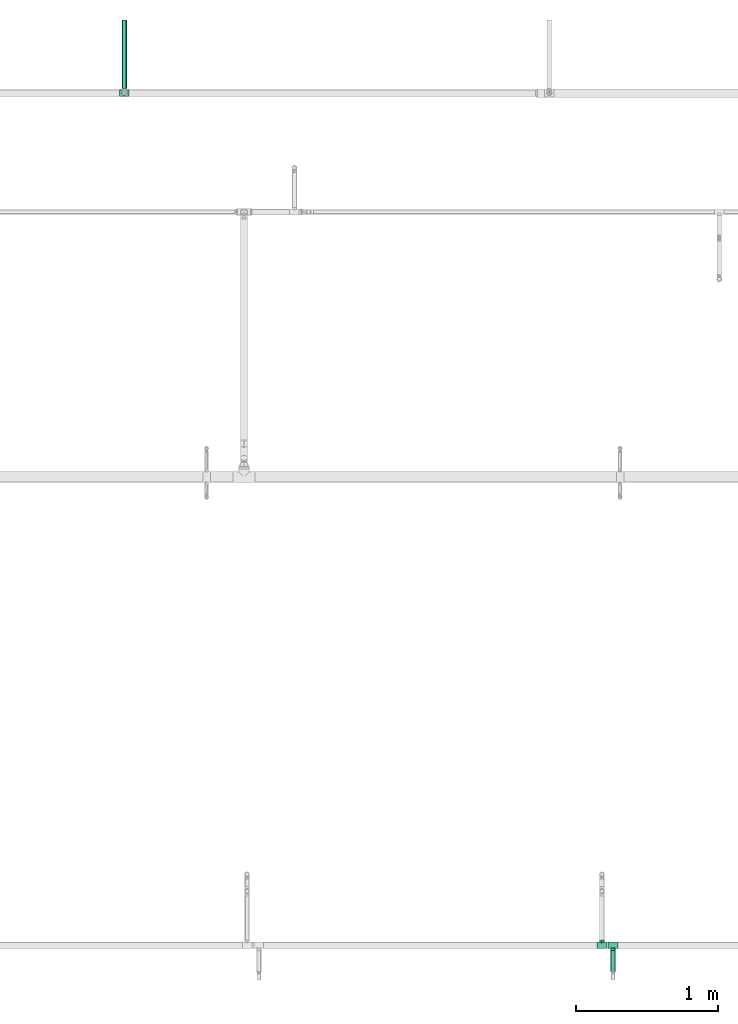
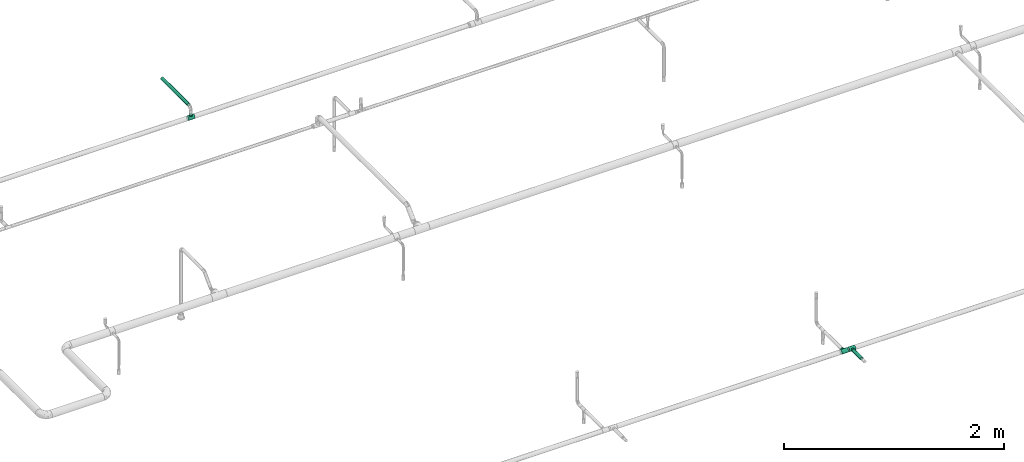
# One storey, part 8 of 51: 3 flow fittings, 2 flow segments.
"""IFC2X3 building model written with IfcOpenShell, lengths in millimetres."""

import ifcopenshell
import ifcopenshell.guid

model = None  # the IFC model being written
_history = None  # IfcOwnerHistory: only IFC2X3 demands one
_inside = {}  # id of a spatial element -> (the spatial element, [elements in it])
_under = {}  # id of a project, library or spatial element -> (it, [spatial elements below it])
_declared = {}  # id of a project -> (the project, [libraries it declares])
_typed = {}  # id of a type object -> (the type object, [elements of that type])
_made_of = {}  # id of a material, layer set ... -> (it, [elements and type objects made of it])


def new_model(schema):
    """Start an empty IFC model of exactly this schema.

    Asked for "IFC4X3", IfcOpenShell would pick the latest addendum, in which some entities
    have other attributes; the version numbers below select the first issue.
    IFC2X3 requires an IfcOwnerHistory on every rooted entity: one is made here for all.
    """
    global model, _history
    if schema == "IFC4X3":
        model = ifcopenshell.file(schema_version=(4, 3, 0, 0))
    else:
        model = ifcopenshell.file(schema=schema)
    _inside.clear()
    _under.clear()
    _declared.clear()
    _typed.clear()
    _made_of.clear()
    _history = None
    if model.schema == "IFC2X3":
        org = make("IfcOrganization", Name="unknown")
        user = make(
            "IfcPersonAndOrganization",
            ThePerson=make("IfcPerson", FamilyName="unknown"),
            TheOrganization=org,
        )
        app = make(
            "IfcApplication",
            ApplicationDeveloper=org,
            Version="unknown",
            ApplicationFullName="unknown",
            ApplicationIdentifier="unknown",
        )
        _history = make(
            "IfcOwnerHistory",
            OwningUser=user,
            OwningApplication=app,
            ChangeAction="ADDED",
            CreationDate=0,
        )
    return model


def make(cls, **values):
    """One entity of the class cls with the attributes given. An attribute that is None is left unset."""
    return model.create_entity(
        cls, **{name: value for name, value in values.items() if value is not None}
    )


def entity(cls, *values):
    """Any entity or typed value of the class cls, its attributes in the order of the schema. None: left unset."""
    e = model.create_entity(cls)
    for i, value in enumerate(values):
        if value is not None:
            e[i] = value
    return e


def rooted(cls, **values):
    """An entity with a GlobalId (a new one), such as an element, a storey or a relation."""
    return make(cls, GlobalId=ifcopenshell.guid.new(), OwnerHistory=_history, **values)


def si_unit(unit_type, name, prefix=None):
    """IfcSIUnit, for example si_unit("LENGTHUNIT", "METRE", prefix="MILLI")."""
    return make("IfcSIUnit", UnitType=unit_type, Prefix=prefix, Name=name)


def converted_unit(unit_type, name, factor, base, dimensions=None, offset=None):
    """IfcConversionBasedUnit, such as the inch: factor (a typed value) times the base unit."""
    return make(
        "IfcConversionBasedUnit"
        if offset is None
        else "IfcConversionBasedUnitWithOffset",
        ConversionOffset=offset,
        Dimensions=None
        if dimensions is None
        else entity("IfcDimensionalExponents", *dimensions),
        UnitType=unit_type,
        Name=name,
        ConversionFactor=make(
            "IfcMeasureWithUnit", ValueComponent=factor, UnitComponent=base
        ),
    )


def derived_unit(unit_type, elements):
    """IfcDerivedUnit: a product of units, each with its exponent."""
    return make(
        "IfcDerivedUnit",
        Elements=[
            make("IfcDerivedUnitElement", Unit=unit, Exponent=power)
            for unit, power in elements
        ],
        UnitType=unit_type,
    )


def assignment(units):
    """IfcUnitAssignment: the units of a project."""
    return None if units is None else make("IfcUnitAssignment", Units=units)


def point(xyz):
    """IfcCartesianPoint."""
    return None if xyz is None else make("IfcCartesianPoint", Coordinates=xyz)


def direction(xyz):
    """IfcDirection."""
    return None if xyz is None else make("IfcDirection", DirectionRatios=xyz)


def frame(location, z_axis=None, x_axis=None):
    """IfcAxis2Placement3D, a coordinate frame: its origin and axes. An axis left out is left unset."""
    return make(
        "IfcAxis2Placement3D",
        Location=point(location),
        Axis=direction(z_axis),
        RefDirection=direction(x_axis),
    )


def frame_2d(location, x_axis=None):
    """IfcAxis2Placement2D, a coordinate frame in the plane: its origin and x axis."""
    return make(
        "IfcAxis2Placement2D", Location=point(location), RefDirection=direction(x_axis)
    )


def origin_with_axes():
    """The frame at (0, 0, 0) with the z axis (0, 0, 1) and the x axis (1, 0, 0) written out."""
    return frame((0.0, 0.0, 0.0), z_axis=(0.0, 0.0, 1.0), x_axis=(1.0, 0.0, 0.0))


def origin_2d_with_axis():
    """The frame at (0, 0) in the plane with the x axis (1, 0) written out."""
    return frame_2d((0.0, 0.0), x_axis=(1.0, 0.0))


def place(relative_to, where):
    """IfcLocalPlacement: puts the frame where relative to a parent placement (None: the world)."""
    return make(
        "IfcLocalPlacement", PlacementRelTo=relative_to, RelativePlacement=where
    )


def context(
    kind, dimensions, precision=None, world=None, true_north=None, identifier=None
):
    """IfcGeometricRepresentationContext, for example the 3D "Model" context."""
    return make(
        "IfcGeometricRepresentationContext",
        ContextIdentifier=identifier,
        ContextType=kind,
        CoordinateSpaceDimension=dimensions,
        Precision=precision,
        WorldCoordinateSystem=world,
        TrueNorth=true_north,
    )


def subcontext(parent, identifier, kind, view, scale=None):
    """IfcGeometricRepresentationSubContext, for example "Body" below "Model"."""
    return make(
        "IfcGeometricRepresentationSubContext",
        ContextIdentifier=identifier,
        ContextType=kind,
        ParentContext=parent,
        TargetScale=scale,
        TargetView=view,
    )


def project(units=None, contexts=None):
    """IfcProject with its units and contexts."""
    return rooted(
        "IfcProject",
        Name="project",
        RepresentationContexts=contexts,
        UnitsInContext=assignment(units),
    )


def spatial(cls, under=None, at=None, **own):
    """A site, building, storey or space (cls), placed at a placement, below another one or the project."""
    s = rooted(cls, ObjectPlacement=at, **own)
    if under is not None:
        _under.setdefault(under.id(), (under, []))[1].append(s)
    return s


def profile(cls, at=None, kind="AREA", **sizes):
    """A parametric profile (cls). Its sizes go by their IFC names, for example OverallWidth=200.0."""
    return make(cls, ProfileType=kind, Position=at, **sizes)


def hollow_circle(**sizes):
    """IfcCircleHollowProfileDef."""
    return profile("IfcCircleHollowProfileDef", **sizes)


def extrude(swept, where, along, depth):
    """IfcExtrudedAreaSolid: the profile swept, set in the frame where, extruded along a direction by depth."""
    return make(
        "IfcExtrudedAreaSolid",
        SweptArea=swept,
        Position=where,
        ExtrudedDirection=direction(along),
        Depth=depth,
    )


def faces_of(points, faces, orient=None, outer=None):
    """IfcFace entities. A face is a list of loops; a loop is a list of indices into points, from 0.

    orient and outer hold one flag for each loop. By default every Orientation is true, the
    first loop of a face is its IfcFaceOuterBound and the others are IfcFaceBound.
    """
    made = []
    for i, loops in enumerate(faces):
        bounds = []
        for j, loop in enumerate(loops):
            is_outer = j == 0 if outer is None else outer[i][j]
            bounds.append(
                make(
                    "IfcFaceOuterBound" if is_outer else "IfcFaceBound",
                    Bound=make("IfcPolyLoop", Polygon=[points[k] for k in loop]),
                    Orientation=True if orient is None else orient[i][j],
                )
            )
        made.append(make("IfcFace", Bounds=bounds))
    return made


def open_shell(faces, orient=None, outer=None):
    """The faces of one IfcOpenShell. surface_model builds it on its shared points."""
    return ("IfcOpenShell", faces, orient, outer)


def surface_model(cls, points, shells):
    """IfcFaceBasedSurfaceModel or IfcShellBasedSurfaceModel (cls): surfaces that need not close."""
    shared = [point(p) for p in points]
    made = [make(c, CfsFaces=faces_of(shared, fs, o, b)) for c, fs, o, b in shells]
    if cls == "IfcFaceBasedSurfaceModel":
        return make(cls, FbsmFaces=made)
    return make(cls, SbsmBoundary=made)


def shape(context_of_items, identifier, shape_type, items):
    """IfcShapeRepresentation: the items that make up one representation, for example the "Body"."""
    return make(
        "IfcShapeRepresentation",
        ContextOfItems=context_of_items,
        RepresentationIdentifier=identifier,
        RepresentationType=shape_type,
        Items=items,
    )


def source(mapping_origin, context_of_items, identifier, shape_type, items):
    """IfcRepresentationMap: a shape defined once, which mapped items show again and again."""
    return make(
        "IfcRepresentationMap",
        MappingOrigin=mapping_origin,
        MappedRepresentation=shape(context_of_items, identifier, shape_type, items),
    )


def transform(
    local_origin,
    x_axis=None,
    y_axis=None,
    z_axis=None,
    scale=None,
    scale2=None,
    scale3=None,
    uniform=True,
):
    """IfcCartesianTransformationOperator3D, or its non-uniform kind. x_axis, y_axis, z_axis: its Axis1, 2, 3."""
    if uniform:
        return make(
            "IfcCartesianTransformationOperator3D",
            Axis1=direction(x_axis),
            Axis2=direction(y_axis),
            LocalOrigin=point(local_origin),
            Scale=scale,
            Axis3=direction(z_axis),
        )
    return make(
        "IfcCartesianTransformationOperator3DnonUniform",
        Axis1=direction(x_axis),
        Axis2=direction(y_axis),
        LocalOrigin=point(local_origin),
        Scale=scale,
        Axis3=direction(z_axis),
        Scale2=scale2,
        Scale3=scale3,
    )


def mapped(mapping_source, mapping_target):
    """IfcMappedItem: shows the shape of a source again, moved by a transform."""
    return make(
        "IfcMappedItem", MappingSource=mapping_source, MappingTarget=mapping_target
    )


def made_of(thing, what):
    """Note that an element or type object is made of a material, layer set ...; save() writes the relation."""
    if what is not None:
        _made_of.setdefault(what.id(), (what, []))[1].append(thing)
    return thing


def type_object(cls, material=None, **own):
    """A type object (cls), such as IfcWallType, which elements share."""
    return made_of(rooted(cls, **own), material)


def element(
    cls,
    number,
    at=None,
    inside=None,
    cuts=None,
    type_object=None,
    material=None,
    context=None,
    identifier="Body",
    shape_type=None,
    held_by="IfcProductDefinitionShape",
    body=None,
    shapes=None,
    **own,
):
    """One element of the class cls, such as IfcWall. Its Tag is "e" and its number.

    at: its placement. inside: the storey or other place that contains it. cuts: it is an
    opening in that element (IfcRelVoidsElement). A single representation is given by context,
    identifier, shape_type and body (its items); several are given by shapes. held_by: the class
    of the entity that holds the representations. save() writes the other relations.
    """
    e = rooted(cls, Tag="e%d" % number, ObjectPlacement=at, **own)
    if body is not None:
        shapes = [shape(context, identifier, shape_type, body)]
    if shapes is not None:
        e.Representation = make(held_by, Representations=shapes)
    if inside is not None:
        _inside.setdefault(inside.id(), (inside, []))[1].append(e)
    if cuts is not None:
        rooted(
            "IfcRelVoidsElement", RelatingBuildingElement=cuts, RelatedOpeningElement=e
        )
    if type_object is not None:
        _typed.setdefault(type_object.id(), (type_object, []))[1].append(e)
    return made_of(e, material)


def aggregate(whole, parts):
    """IfcRelAggregates: a whole, such as a stair, and the parts it consists of."""
    return rooted("IfcRelAggregates", RelatingObject=whole, RelatedObjects=parts)


def save(model, path):
    """Write the relations noted so far, then the file.

    IfcRelAggregates (storeys below a building ...), IfcRelContainedInSpatialStructure (elements
    in a storey), IfcRelDefinesByType, IfcRelAssociatesMaterial and IfcRelDeclares: one each for
    every whole, place, type object, material and project.
    """
    for whole, parts in _under.values():
        aggregate(whole, parts)
    for where, things in _inside.values():
        rooted(
            "IfcRelContainedInSpatialStructure",
            RelatedElements=things,
            RelatingStructure=where,
        )
    for kind, things in _typed.values():
        rooted("IfcRelDefinesByType", RelatedObjects=things, RelatingType=kind)
    for what, things in _made_of.values():
        rooted("IfcRelAssociatesMaterial", RelatedObjects=things, RelatingMaterial=what)
    for by, libraries in _declared.values():
        rooted("IfcRelDeclares", RelatingContext=by, RelatedDefinitions=libraries)
    model.write(path)


model = new_model("IFC2X3")

# Units and contexts
model_context = context("Model", 3, precision=0.01, world=frame((0.0, 4.29681676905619e-09, 0.0)), true_north=direction((4.01073788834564e-13, 1.0)))
plan_context = context("Plan", 3, precision=0.01, world=frame((0.0, 4.29681676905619e-09, 0.0)), true_north=direction((4.01073788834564e-13, 1.0)))
body_context = subcontext(model_context, "Body", "Model", "MODEL_VIEW")
ifc_project = project(units=[converted_unit("PLANEANGLEUNIT", "DEGREE", entity("IfcPositiveLengthMeasure", 0.0174532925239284), si_unit("PLANEANGLEUNIT", "RADIAN"), dimensions=[0, 0, 0, 0, 0, 0, 0]), si_unit("AREAUNIT", "SQUARE_METRE"), si_unit("LENGTHUNIT", "METRE", prefix="MILLI"), si_unit("MASSUNIT", "GRAM", prefix="KILO"), si_unit("POWERUNIT", "WATT"), si_unit("PRESSUREUNIT", "PASCAL"), si_unit("FORCEUNIT", "NEWTON", prefix="KILO"), si_unit("ELECTRICVOLTAGEUNIT", "VOLT"), si_unit("ELECTRICCURRENTUNIT", "AMPERE"), si_unit("THERMODYNAMICTEMPERATUREUNIT", "DEGREE_CELSIUS"), si_unit("TIMEUNIT", "SECOND"), si_unit("VOLUMEUNIT", "CUBIC_METRE"), derived_unit("LINEARVELOCITYUNIT", [(si_unit("LENGTHUNIT", "METRE"), 1), (si_unit("TIMEUNIT", "SECOND"), -1)]), derived_unit("VOLUMETRICFLOWRATEUNIT", [(si_unit("VOLUMEUNIT", "CUBIC_METRE"), 1), (si_unit("TIMEUNIT", "SECOND"), -1)]), derived_unit("THERMALTRANSMITTANCEUNIT", [(si_unit("POWERUNIT", "WATT"), 1), (si_unit("THERMODYNAMICTEMPERATUREUNIT", "KELVIN"), -1), (si_unit("AREAUNIT", "SQUARE_METRE"), -1)]), derived_unit("SOUNDPRESSUREUNIT", [(si_unit("PRESSUREUNIT", "PASCAL"), 1)])], contexts=[model_context, plan_context])

# Site, building, storey
site_placement = place(None, frame((0.0, -4.29681676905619e-09, 0.0), z_axis=(0.0, 0.0, 1.0), x_axis=(1.0, 0.0, 0.0)))
site = spatial("IfcSite", under=ifc_project, at=site_placement, Name="ENGM", CompositionType="ELEMENT")
building_placement = place(site_placement, frame((0.0, 4.29681676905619e-09, 0.0), z_axis=(0.0, 0.0, 1.0), x_axis=(1.0, 0.0, 0.0)))
building = spatial("IfcBuilding", under=site, at=building_placement, Name="TH", CompositionType="ELEMENT")
storey_placement = place(building_placement, frame((0.0, 0.0, 210200.0), z_axis=(0.0, 0.0, 1.0), x_axis=(1.0, 0.0, 0.0)))
storey = spatial("IfcBuildingStorey", under=building, at=storey_placement, Name="Nivå F - 0,7 m", CompositionType="ELEMENT", Elevation=210200.0)

# Flow fittings
pipe_fitting_type = type_object("IfcPipeFittingType", Name="magi_pipe_fe_tee_centric_90_NOR", PredefinedType="JUNCTION")
shared_shape_1 = source(origin_with_axes(), body_context, "Body", "SurfaceModel", [
    surface_model("IfcShellBasedSurfaceModel", [(-33.8, 0.0, -24.2), (-33.8, -6.26342, -23.37541), (-33.8, 6.26342, -23.37541), (-33.8, 12.1, -20.95781), (-33.8, 17.11198, -17.11198), (-33.8, 20.95781, -12.1), (-33.8, -23.37541, -6.26342), (-33.8, 23.37541, -6.26342), (-33.8, -17.11198, -17.11198), (-33.8, -20.95781, -12.1), (-33.8, -12.1, -20.95781), (-33.8, -24.2, 0.0), (-33.8, -23.37541, 6.26342), (-33.8, 20.95781, 12.1), (-33.8, 23.37541, 6.26342), (-33.8, 24.2, 0.0), (-33.8, 12.1, 20.95781), (-33.8, 17.11198, 17.11198), (-33.8, -17.11198, 17.11198), (-33.8, 6.26342, 23.37541), (-33.8, -20.95781, 12.1), (-33.8, -12.1, 20.95781), (-33.8, -6.26342, 23.37541), (-33.8, 0.0, 24.2), (33.8, 6.26342, -23.37541), (33.8, -6.26342, -23.37541), (33.8, 0.0, -24.2), (33.8, 17.11198, -17.11198), (33.8, 12.1, -20.95781), (33.8, -23.37541, -6.26342), (33.8, 20.95781, -12.1), (33.8, 23.37541, -6.26342), (33.8, -17.11198, -17.11198), (33.8, -12.1, -20.95781), (33.8, -20.95781, -12.1), (33.8, -24.2, 0.0), (33.8, 24.2, 0.0), (33.8, 23.37541, 6.26342), (33.8, 20.95781, 12.1), (33.8, -23.37541, 6.26342), (33.8, -17.11198, 17.11198), (33.8, 12.1, 20.95781), (33.8, 17.11198, 17.11198), (33.8, 6.26342, 23.37541), (33.8, -20.95781, 12.1), (33.8, -12.1, 20.95781), (33.8, 0.0, 24.2), (33.8, -6.26342, 23.37541), (15.81824, -23.45734, 5.94922), (16.9, -24.2, 0.0), (12.87025, -21.57947, 10.95293), (33.8, -19.0349, 14.60599), (8.52813, -19.30697, 14.59044), (3.03527, -17.5853, 16.6252), (-3.04044, -17.58619, 16.62425), (-8.52961, -19.30762, 14.58958), (-33.8, -19.0349, 14.60599), (-16.9, -24.2, 0.0), (-15.81885, -23.45775, 5.9476), (-12.87368, -21.58151, 10.9489), (3.03527, -17.5853, -16.6252), (33.8, -19.0349, -14.60599), (8.52813, -19.30697, -14.59044), (-8.52961, -19.30762, -14.58958), (-33.8, -19.0349, -14.60599), (12.87025, -21.57947, -10.95293), (-3.04044, -17.58619, -16.62425), (15.81824, -23.45734, -5.94922), (-12.87368, -21.58151, -10.9489), (-15.81885, -23.45775, -5.9476), (4.37404, -36.3, -16.32415), (-16.9, -36.3, 0.0), (0.0, -36.3, -16.9), (14.63583, -36.3, -8.45), (8.45, -36.3, -14.63583), (16.32415, -36.3, -4.37404), (11.9501, -36.3, -11.9501), (-11.9501, -36.3, -11.9501), (-8.45, -36.3, -14.63583), (-4.37404, -36.3, -16.32415), (-14.63583, -36.3, -8.45), (-16.32415, -36.3, -4.37404), (16.9, -36.3, 0.0), (8.45, -36.3, 14.63583), (16.32415, -36.3, 4.37404), (14.63583, -36.3, 8.45), (-8.45, -36.3, 14.63583), (11.9501, -36.3, 11.9501), (4.37404, -36.3, 16.32415), (-16.32415, -36.3, 4.37404), (-11.9501, -36.3, 11.9501), (-14.63583, -36.3, 8.45), (0.0, -36.3, 16.9), (-4.37404, -36.3, 16.32415), (-16.35943, -23.82888, 2.9738), (16.35912, -23.82867, 2.97461), (-0.00259, -17.58575, 16.62472), (16.35912, -23.82867, -2.97461), (-0.00259, -17.58575, -16.62472), (-16.35943, -23.82888, -2.9738)], [open_shell([[[0, 1, 2]], [[3, 2, 4]], [[5, 2, 6]], [[4, 2, 5]], [[7, 5, 6]], [[8, 9, 10]], [[1, 10, 9]], [[1, 9, 2]], [[9, 6, 2]], [[6, 11, 7]], [[11, 12, 7]], [[13, 14, 15]], [[13, 15, 12]], [[16, 17, 18]], [[12, 17, 13]], [[19, 16, 18]], [[20, 18, 12]], [[18, 17, 12]], [[21, 22, 18]], [[23, 18, 22]], [[18, 23, 19]], [[7, 12, 15]], [[24, 25, 26]], [[27, 24, 28]], [[29, 24, 30]], [[30, 24, 27]], [[29, 30, 31]], [[25, 32, 33]], [[32, 25, 34]], [[24, 34, 25]], [[24, 29, 34]], [[31, 35, 29]], [[31, 36, 35]], [[36, 37, 38]], [[39, 36, 38]], [[40, 38, 41]], [[41, 38, 42]], [[40, 41, 43]], [[39, 40, 44]], [[39, 38, 40]], [[45, 46, 47]], [[46, 45, 40]], [[43, 46, 40]], [[36, 39, 35]], [[35, 39, 48]], [[48, 49, 35]], [[39, 50, 48]], [[51, 40, 52]], [[52, 50, 44]], [[53, 52, 40]], [[54, 53, 21]], [[44, 50, 39]], [[55, 18, 56]], [[57, 58, 11]], [[12, 11, 58]], [[58, 59, 12]], [[55, 54, 18]], [[55, 20, 59]], [[20, 55, 56]], [[59, 20, 12]], [[18, 54, 21]], [[52, 44, 51]], [[53, 40, 45]], [[23, 47, 46]], [[22, 45, 47]], [[19, 46, 43]], [[38, 37, 14]], [[17, 41, 42]], [[13, 42, 38]], [[43, 41, 16]], [[15, 37, 36]], [[21, 45, 22]], [[22, 47, 23]], [[19, 23, 46]], [[43, 16, 19]], [[16, 41, 17]], [[13, 17, 42]], [[14, 13, 38]], [[37, 15, 14]], [[45, 21, 53]], [[5, 31, 30]], [[7, 36, 31]], [[4, 30, 27]], [[26, 25, 1]], [[2, 28, 24]], [[0, 24, 26]], [[27, 28, 3]], [[10, 25, 33]], [[15, 36, 7]], [[7, 31, 5]], [[4, 5, 30]], [[27, 3, 4]], [[3, 28, 2]], [[0, 2, 24]], [[1, 0, 26]], [[25, 10, 1]], [[33, 60, 10]], [[61, 34, 62]], [[63, 9, 64]], [[62, 60, 32]], [[34, 65, 62]], [[66, 10, 60]], [[29, 35, 67]], [[67, 65, 29]], [[49, 67, 35]], [[29, 65, 34]], [[66, 63, 8]], [[62, 32, 61]], [[64, 8, 63]], [[63, 68, 9]], [[8, 10, 66]], [[68, 69, 6]], [[69, 11, 6]], [[11, 69, 57]], [[68, 6, 9]], [[60, 33, 32]], [[70, 71, 72]], [[73, 70, 74]], [[73, 75, 70]], [[73, 74, 76]], [[71, 70, 75]], [[72, 77, 78]], [[78, 79, 72]], [[80, 71, 81]], [[77, 72, 80]], [[71, 80, 72]], [[75, 82, 71]], [[83, 82, 84]], [[83, 84, 85]], [[86, 71, 83]], [[83, 85, 87]], [[86, 83, 88]], [[89, 90, 91]], [[90, 89, 86]], [[86, 92, 93]], [[89, 71, 86]], [[88, 92, 86]], [[83, 71, 82]], [[89, 94, 71]], [[59, 91, 90]], [[89, 91, 58]], [[90, 86, 55]], [[89, 58, 94]], [[94, 57, 71]], [[58, 91, 59]], [[95, 48, 84]], [[55, 93, 54]], [[55, 59, 90]], [[92, 53, 96]], [[55, 86, 93]], [[53, 92, 88]], [[83, 52, 88]], [[87, 85, 50]], [[87, 52, 83]], [[48, 85, 84]], [[87, 50, 52]], [[52, 53, 88]], [[82, 95, 84]], [[48, 50, 85]], [[95, 82, 49]], [[92, 54, 93]], [[96, 54, 92]], [[75, 97, 82]], [[65, 73, 76]], [[75, 73, 67]], [[76, 74, 62]], [[97, 49, 82]], [[67, 73, 65]], [[62, 70, 60]], [[62, 65, 76]], [[72, 66, 98]], [[62, 74, 70]], [[99, 71, 57]], [[99, 69, 81]], [[75, 67, 97]], [[79, 66, 72]], [[69, 80, 81]], [[77, 80, 68]], [[72, 60, 70]], [[79, 63, 66]], [[63, 79, 78]], [[78, 77, 63]], [[63, 77, 68]], [[68, 80, 69]], [[71, 99, 81]], [[98, 60, 72]]])]),
])
for number, where, z_axis, x_axis, name in (
    (1, (902499.91443, 487040.10129, 2819.99995999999), (0.0, 1.0, 0.0), (1.0, 0.0, 0.0), "magi_pipe_fe_tee_centric_90_NOR"),
    (2, (905949.82472, 481023.05237, 2700.0), (0.0, 0.0, -1.0), (-1.0, 0.0, 0.0), "magi_pipe_fe_tee_centric_90_NOR"),
    (3, (905871.02472, 481023.05237, 2700.0), (0.0, 0.0, 1.0), (-1.0, 0.0, 0.0), "magi_pipe_fe_tee_centric_90_NOR"),
):
    element("IfcFlowFitting", number, at=place(storey_placement, frame(where, z_axis=z_axis, x_axis=x_axis)), inside=storey, type_object=pipe_fitting_type, Name=name, context=body_context, shape_type="MappedRepresentation", body=[
        mapped(shared_shape_1, transform((0.0, 0.0, 0.0), scale=1.0)),
    ])

# Flow segments
pipe_segment_type = type_object("IfcPipeSegmentType", Name="Stålrør normaltykke", PredefinedType="RIGIDSEGMENT")
shared_shape_2 = source(origin_with_axes(), body_context, "Body", "SweptSolid", [
    extrude(hollow_circle(Radius=16.9, WallThickness=2.0, at=origin_2d_with_axis()), frame((0.0, 0.0, 0.0), z_axis=(1.0, 0.0, 0.0), x_axis=(0.0, 1.0, 0.0)), (0.0, 0.0, 1.0), 482.5),
])
flow_segment_1_placement = place(storey_placement, frame((902499.91443, 487556.35302, 2938.32088000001), z_axis=(0.0, 0.0, 1.0), x_axis=(0.0, -1.0, 0.0)))
element("IfcFlowSegment", 4, at=flow_segment_1_placement, inside=storey, type_object=pipe_segment_type, Name="Stålrør normaltykke", context=body_context, shape_type="MappedRepresentation", body=[
    mapped(shared_shape_2, transform((0.0, 0.0, 0.0), scale=1.0)),
])
shared_shape_3 = source(origin_with_axes(), body_context, "Body", "SweptSolid", [
    extrude(hollow_circle(Radius=16.9, WallThickness=2.0, at=origin_2d_with_axis()), frame((0.0, 0.0, 0.0), z_axis=(1.0, 0.0, 0.0), x_axis=(0.0, 1.0, 0.0)), (0.0, 0.0, 1.0), 151.3),
])
flow_segment_2_placement = place(storey_placement, frame((905949.82472, 480986.75237, 2700.0), z_axis=(0.0, 0.0, 1.0), x_axis=(0.0, -1.0, 0.0)))
element("IfcFlowSegment", 5, at=flow_segment_2_placement, inside=storey, type_object=pipe_segment_type, Name="Stålrør normaltykke", context=body_context, shape_type="MappedRepresentation", body=[
    mapped(shared_shape_3, transform((0.0, 0.0, 0.0), scale=1.0)),
])

save(model, "model.ifc")
